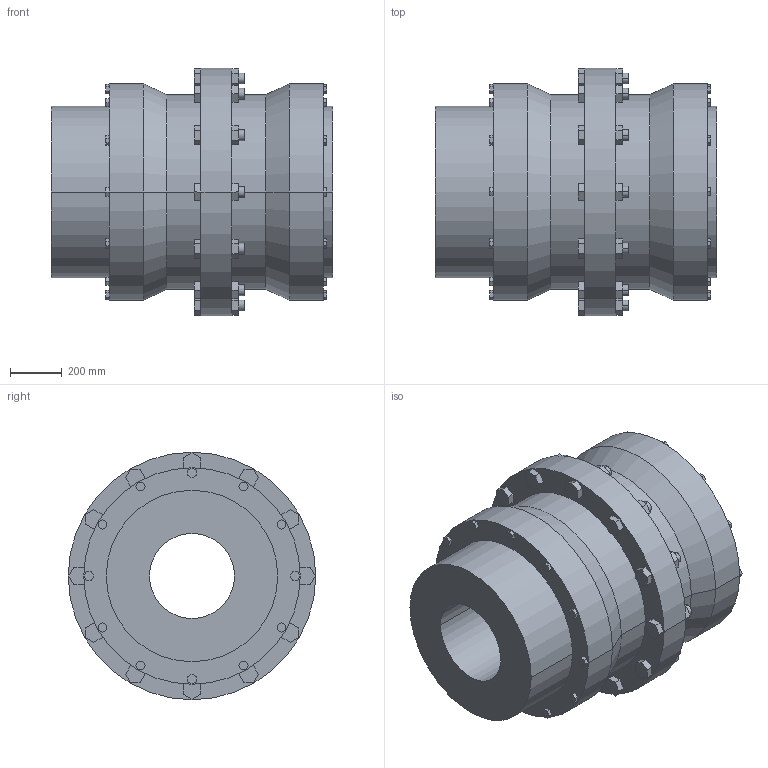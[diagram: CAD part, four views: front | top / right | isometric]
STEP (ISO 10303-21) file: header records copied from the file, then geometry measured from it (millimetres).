
FILE_DESCRIPTION((''),'2;1');
FILE_NAME('A19713900-0_ASM','2019-05-23T',('AB_Roschiwal'),('RENK AG'),'PRO/ENGINEER BY PARAMETRIC TECHNOLOGY CORPORATION, 2015440','PRO/ENGINEER BY PARAMETRIC TECHNOLOGY CORPORATION, 2015440','');
FILE_SCHEMA(('CONFIG_CONTROL_DESIGN'));
Length unit declared in the file: millimetre
Products named in the file (3): SBK400_GEHAEUSE; SBK400_NABE; A19713900-0_ASM
Assembly tree (3 placements, depth 2):
  A19713900-0_ASM
    SBK400_GEHAEUSE
    SBK400_NABE  x2
Bounding box: 1094 x 960 x 960 mm (x, y, z)
Volume: 378520174.1 mm3; surface area: 9036416.1 mm2
Topology: 3 solids, 3 shells, 422 faces, 1036 edges, 688 vertices
Faces by surface type: plane 362, cylinder 56, cone 4
Entity records: 12052 total; most frequent: CARTESIAN_POINT 2100, ORIENTED_EDGE 2024, DIRECTION 1940, EDGE_CURVE 1012, VECTOR 916, LINE 916, VERTEX_POINT 672, AXIS2_PLACEMENT_3D 512
